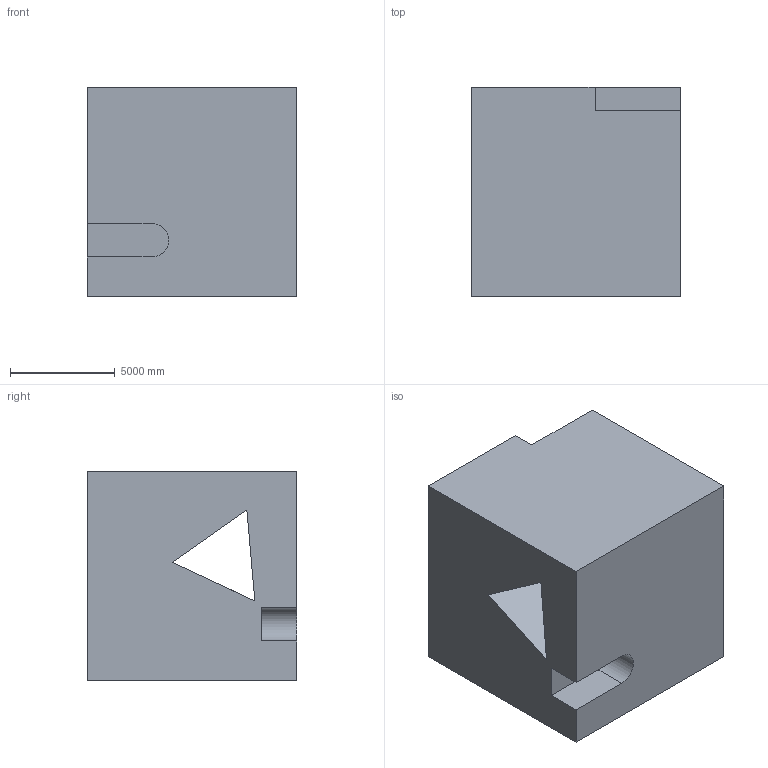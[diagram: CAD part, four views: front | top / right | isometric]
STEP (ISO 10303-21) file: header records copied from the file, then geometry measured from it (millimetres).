
FILE_DESCRIPTION (( 'STEP AP203' ), '1' );
FILE_NAME ('134.STEP', '2022-09-06T16:15:15', ( 'user' ), ( '' ), 'SwSTEP 2.0', 'SolidWorks 2021', '' );
FILE_SCHEMA (( 'CONFIG_CONTROL_DESIGN' ));
Length unit declared in the file: centimetre
Products named in the file (1): 134
Bounding box: 10000 x 10000 x 10000 mm (x, y, z)
Volume: 859783602240.1 mm3; surface area: 777365709.5 mm2
Topology: 1 solids, 1 shells, 21 faces, 57 edges, 38 vertices
Faces by surface type: plane 20, cylinder 1
Entity records: 734 total; most frequent: CARTESIAN_POINT 117, ORIENTED_EDGE 114, DIRECTION 103, EDGE_CURVE 57, VECTOR 55, LINE 55, VERTEX_POINT 38, AXIS2_PLACEMENT_3D 24
